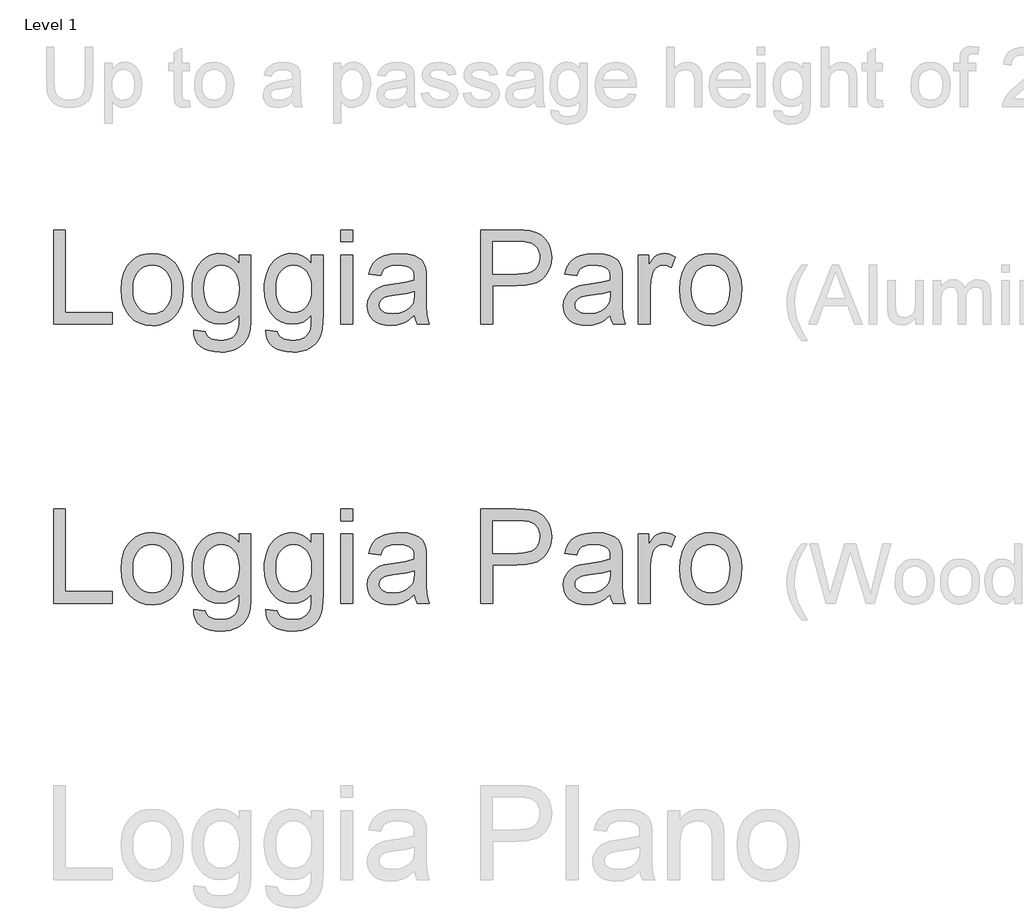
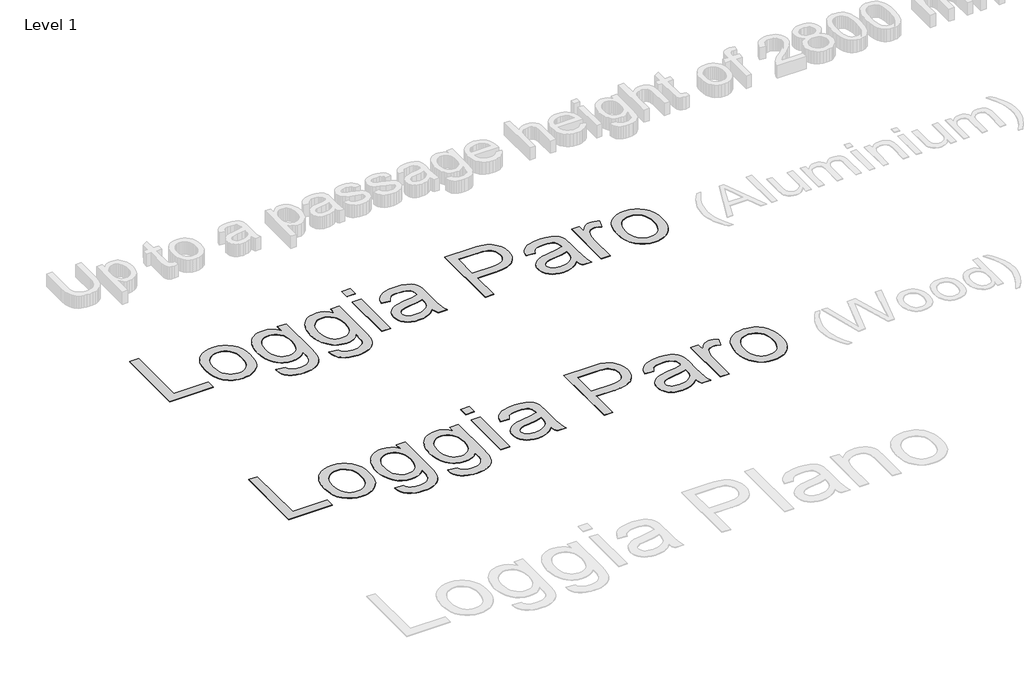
# One storey, part 10 of 47: 2 proxies.
"""IFC4 building model written with IfcOpenShell, lengths in millimetres."""

from ifc_helpers import new_model, si_unit, origin, origin_with_axes, place, context, project, spatial, polyline, outline, extrude, element, save

model = new_model("IFC4")

# Units and contexts
model_context = context("Model", 3, world=origin())
ifc_project = project(units=[si_unit("LENGTHUNIT", "METRE", prefix="MILLI")], contexts=[model_context])

# Site, building, storey
site = spatial("IfcSite", under=ifc_project)
building = spatial("IfcBuilding", under=site)
storey = spatial("IfcBuildingStorey", under=building, Name="Level 1", Elevation=0.0)

# Proxies
placement = place(None, origin())
element("IfcBuildingElementProxy", 1, Name="800mm Arial", ObjectType="800mm Arial", at=placement, inside=storey, context=model_context, shape_type="SweptSolid", body=[
    extrude(outline(polyline([(172933.6081343, -17751.4466063), (172933.6081343, -16952.057908), (173033.5317216, -16952.057908), (173033.5317216, -17651.523019), (173433.2260708, -17651.523019), (173433.2260708, -17751.4466063), (172933.6081343, -17751.4466063)])), origin_with_axes(), (0.0, 0.0, 1.0), 5.0),
    extrude(outline(polyline([(173508.1687612, -17457.9210686), (173513.5723439, -17381.8927826), (173520.3268222, -17347.8215472), (173529.7830919, -17316.3789169), (173541.9411529, -17287.5648918), (173556.8010052, -17261.3794717), (173574.3626488, -17237.8226568), (173594.6260838, -17216.8944469), (173632.7073142, -17188.4616), (173674.7406006, -17168.1524237), (173720.7259429, -17155.9669178), (173770.6633411, -17151.9050826), (173825.7908622, -17156.8512513), (173875.6367777, -17171.6897577), (173920.2010875, -17196.4206016), (173959.4837917, -17231.043783), (173991.5454554, -17274.3883225), (174014.4466438, -17325.2832405), (174028.1873568, -17383.7285369), (174032.7675945, -17449.7242119), (174030.7427757, -17503.2111418), (174024.6683194, -17550.6724063), (174014.5442254, -17592.1080051), (174000.3704939, -17627.5179385), (173982.3239916, -17658.1036801), (173960.581585, -17685.0667037), (173935.1432743, -17708.4070094), (173906.0090595, -17728.1245972), (173874.3133268, -17743.7925474), (173841.1904629, -17754.9839403), (173806.6404677, -17761.6987761), (173770.6633411, -17763.9370547), (173714.7307716, -17759.0091825), (173664.4213434, -17744.2255658), (173619.7350565, -17719.5862047), (173580.671911, -17685.0910991), (173548.951783, -17641.3257389), (173526.2945487, -17588.8756137), (173512.7002081, -17527.7407236), (173508.1687612, -17457.9210686)]), holes=[polyline([(173608.0923485, -17457.7259054), (173610.9832043, -17506.1934803), (173619.6557715, -17548.1596793), (173634.1100501, -17583.6245023), (173654.3460403, -17612.5879494), (173678.961006, -17635.0866135), (173706.5522114, -17651.1570879), (173737.1196564, -17660.7993726), (173770.6633411, -17664.0134674), (173804.036258, -17660.781076), (173834.481726, -17651.0839017), (173861.9997451, -17634.9219445), (173886.5903154, -17612.2952045), (173906.8263056, -17583.0451114), (173921.2805843, -17547.0130952), (173929.9531515, -17504.1991558), (173932.8440072, -17454.6032933), (173929.9348549, -17407.672629), (173921.2073981, -17366.8042233), (173906.6616366, -17331.9980763), (173886.2975706, -17303.2541879), (173861.6155175, -17280.7555238), (173834.1157949, -17264.6850494), (173803.7984028, -17255.0427647), (173770.6633411, -17251.8286698), (173737.1196564, -17255.030567), (173706.5522114, -17264.6362586), (173678.961006, -17280.6457444), (173654.3460403, -17303.0590247), (173634.1100501, -17331.9370878), (173619.6557715, -17367.3409222), (173610.9832043, -17409.2705281), (173608.0923485, -17457.7259054)])]), origin_with_axes(), (0.0, 0.0, 1.0), 5.0),
    extrude(outline(polyline([(174120.2007334, -17801.4084), (174220.1243207, -17813.8988484), (174224.3447261, -17830.7316792), (174231.1510447, -17845.1249694), (174240.5432764, -17857.0787189), (174252.5214213, -17866.5929276), (174271.9035722, -17876.326695), (174294.5303122, -17883.279386), (174349.5175597, -17888.8415388), (174380.7192853, -17887.2680351), (174408.1641183, -17882.5475238), (174431.8520585, -17874.680005), (174451.7831061, -17863.6654788), (174468.3719829, -17849.8088876), (174482.0334108, -17833.415174), (174492.7673899, -17814.4843381), (174500.5739202, -17793.0163799), (174505.9897005, -17750.0316727), (174507.4046342, -17676.5039158), (174474.1536943, -17709.2913429), (174437.0482802, -17732.7109337), (174396.0883918, -17746.7626882), (174351.274029, -17751.4466063), (174296.4880436, -17745.9942328), (174248.252225, -17729.6371124), (174226.5906283, -17717.3692721), (174206.5665732, -17702.375245), (174171.4310882, -17664.2086307), (174143.5532368, -17618.4184516), (174123.6404858, -17568.2858902), (174111.6928352, -17513.8109462), (174107.710285, -17454.9936198), (174109.4972486, -17413.8446669), (174114.8581393, -17374.3180087), (174123.7929571, -17336.413645), (174136.3017021, -17300.1315758), (174152.1953097, -17266.6793739), (174171.2847158, -17237.2646118), (174193.5699201, -17211.8872897), (174219.0509228, -17190.5474073), (174247.3191007, -17173.6413902), (174277.9658308, -17161.5656638), (174310.9911131, -17154.3202279), (174346.3949476, -17151.9050826), (174393.1243498, -17157.3696537), (174435.535765, -17173.7633673), (174473.6291931, -17201.0862232), (174507.4046342, -17239.3382214), (174507.4046342, -17164.395531), (174607.3282214, -17164.395531), (174607.3282214, -17671.2345079), (174605.620543, -17734.7418513), (174600.4975075, -17788.2592756), (174591.959115, -17831.7867806), (174580.0053655, -17865.3243664), (174564.3496131, -17892.372774), (174544.7052115, -17916.4327442), (174521.072161, -17937.5042771), (174493.4504613, -17955.5873725), (174462.1206598, -17970.1026397), (174427.3633036, -17980.4706877), (174389.1783927, -17986.6915165), (174347.5659271, -17988.7651261), (174298.610444, -17985.8437761), (174254.5950309, -17977.0797262), (174215.5196876, -17962.4729762), (174181.3844143, -17942.0235262), (174153.8115055, -17915.7069809), (174134.4232557, -17883.4989447), (174123.219665, -17845.3994177), (174120.2007334, -17801.4084)]), holes=[polyline([(174207.6338723, -17448.1629058), (174210.2990705, -17497.569704), (174218.2946652, -17539.8164501), (174231.6206563, -17574.9031443), (174250.2770438, -17602.8297865), (174272.9586735, -17624.1330758), (174298.3603911, -17639.3497109), (174326.4821966, -17648.479692), (174357.32409, -17651.523019), (174387.8610407, -17648.4979885), (174415.8486715, -17639.4228971), (174441.2869822, -17624.2977447), (174464.1759729, -17603.1225314), (174483.0885122, -17575.4703375), (174496.5974688, -17540.9142434), (174504.7028428, -17499.4542492), (174507.4046342, -17451.0903547), (174504.6235578, -17404.7451801), (174496.2803285, -17364.4622642), (174482.3749465, -17330.241607), (174462.9074117, -17302.0832084), (174439.524414, -17280.0968478), (174413.8726435, -17264.3923045), (174385.9521001, -17254.9695785), (174355.7627839, -17251.8286698), (174326.0796724, -17254.9207877), (174298.7019268, -17264.1971412), (174273.6295472, -17279.6577304), (174250.8625336, -17301.3025554), (174231.9499943, -17329.0340343), (174218.4410376, -17362.7545857), (174210.3356636, -17402.4642096), (174207.6338723, -17448.1629058)])]), origin_with_axes(), (0.0, 0.0, 1.0), 5.0),
    extrude(outline(polyline([(174732.2327056, -17801.4084), (174832.1562929, -17813.8988484), (174836.3766983, -17830.7316792), (174843.1830168, -17845.1249694), (174852.5752486, -17857.0787189), (174864.5533934, -17866.5929276), (174883.9355443, -17876.326695), (174906.5622844, -17883.279386), (174961.5495319, -17888.8415388), (174992.7512575, -17887.2680351), (175020.1960904, -17882.5475238), (175043.8840307, -17874.680005), (175063.8150782, -17863.6654788), (175080.403955, -17849.8088876), (175094.065383, -17833.415174), (175104.7993621, -17814.4843381), (175112.6058923, -17793.0163799), (175118.0216727, -17750.0316727), (175119.4366063, -17676.5039158), (175086.1856665, -17709.2913429), (175049.0802524, -17732.7109337), (175008.1203639, -17746.7626882), (174963.3060012, -17751.4466063), (174908.5200158, -17745.9942328), (174860.2841972, -17729.6371124), (174838.6226004, -17717.3692721), (174818.5985454, -17702.375245), (174783.4630604, -17664.2086307), (174755.585209, -17618.4184516), (174735.672458, -17568.2858902), (174723.7248074, -17513.8109462), (174719.7422572, -17454.9936198), (174721.5292207, -17413.8446669), (174726.8901114, -17374.3180087), (174735.8249293, -17336.413645), (174748.3336742, -17300.1315758), (174764.2272819, -17266.6793739), (174783.3166879, -17237.2646118), (174805.6018923, -17211.8872897), (174831.0828949, -17190.5474073), (174859.3510729, -17173.6413902), (174889.997803, -17161.5656638), (174923.0230853, -17154.3202279), (174958.4269198, -17151.9050826), (175005.156322, -17157.3696537), (175047.5677371, -17173.7633673), (175085.6611653, -17201.0862232), (175119.4366063, -17239.3382214), (175119.4366063, -17164.395531), (175219.3601936, -17164.395531), (175219.3601936, -17671.2345079), (175217.6525151, -17734.7418513), (175212.5294796, -17788.2592756), (175203.9910872, -17831.7867806), (175192.0373377, -17865.3243664), (175176.3815852, -17892.372774), (175156.7371837, -17916.4327442), (175133.1041331, -17937.5042771), (175105.4824335, -17955.5873725), (175074.152632, -17970.1026397), (175039.3952758, -17980.4706877), (175001.2103649, -17986.6915165), (174959.5978993, -17988.7651261), (174910.6424162, -17985.8437761), (174866.627003, -17977.0797262), (174827.5516598, -17962.4729762), (174793.4163865, -17942.0235262), (174765.8434776, -17915.7069809), (174746.4552279, -17883.4989447), (174735.2516372, -17845.3994177), (174732.2327056, -17801.4084)]), holes=[polyline([(174819.6658444, -17448.1629058), (174822.3310427, -17497.569704), (174830.3266373, -17539.8164501), (174843.6526284, -17574.9031443), (174862.309016, -17602.8297865), (174884.9906457, -17624.1330758), (174910.3923633, -17639.3497109), (174938.5141688, -17648.479692), (174969.3560621, -17651.523019), (174999.8930129, -17648.4979885), (175027.8806437, -17639.4228971), (175053.3189544, -17624.2977447), (175076.207945, -17603.1225314), (175095.1204843, -17575.4703375), (175108.629441, -17540.9142434), (175116.734815, -17499.4542492), (175119.4366063, -17451.0903547), (175116.6555299, -17404.7451801), (175108.3123007, -17364.4622642), (175094.4069187, -17330.241607), (175074.9393839, -17302.0832084), (175051.5563862, -17280.0968478), (175025.9046157, -17264.3923045), (174997.9840723, -17254.9695785), (174967.7947561, -17251.8286698), (174938.1116445, -17254.9207877), (174910.733899, -17264.1971412), (174885.6615194, -17279.6577304), (174862.8945057, -17301.3025554), (174843.9819664, -17329.0340343), (174830.4730098, -17362.7545857), (174822.3676358, -17402.4642096), (174819.6658444, -17448.1629058)])]), origin_with_axes(), (0.0, 0.0, 1.0), 5.0),
    extrude(outline(polyline([(175369.2455746, -17751.4466063), (175369.2455746, -17164.395531), (175469.1691618, -17164.395531), (175469.1691618, -17751.4466063), (175369.2455746, -17751.4466063)])), origin_with_axes(), (0.0, 0.0, 1.0), 5.0),
    extrude(outline(polyline([(175369.2455746, -17051.9814953), (175369.2455746, -16952.057908), (175469.1691618, -16952.057908), (175469.1691618, -17051.9814953), (175369.2455746, -17051.9814953)])), origin_with_axes(), (0.0, 0.0, 1.0), 5.0),
    extrude(outline(polyline([(175993.7679951, -17676.5039158), (175946.0261835, -17717.4394089), (175921.6246776, -17732.6011544), (175896.8694383, -17744.2255658), (175845.1755708, -17759.0091825), (175789.8223922, -17763.9370547), (175745.3312686, -17760.9730128), (175706.3169138, -17752.0808869), (175672.779328, -17737.2606771), (175644.718511, -17716.5123834), (175622.5613826, -17691.1533578), (175606.7348622, -17662.5009522), (175597.23895, -17630.5551667), (175594.073646, -17595.3160012), (175598.8551457, -17553.8926), (175613.1996451, -17516.2748823), (175635.3262793, -17484.072945), (175663.4541836, -17458.8968849), (175696.5099602, -17439.8684674), (175733.4202111, -17426.1094578), (175819.8775337, -17411.0818871), (175922.0454984, -17395.2736633), (175993.1825054, -17376.733154), (175993.7679951, -17354.4845427), (175992.0481189, -17330.2599035), (175986.8884903, -17309.8897386), (175978.2891094, -17293.3740481), (175966.249976, -17280.7128318), (175945.4406938, -17268.0760109), (175920.0938658, -17259.0497103), (175890.2094922, -17253.63393), (175855.7875728, -17251.8286698), (175796.2627796, -17256.634565), (175773.2335154, -17262.641934), (175754.693006, -17271.0522506), (175739.4580743, -17282.5241908), (175726.345543, -17297.7164305), (175715.3554121, -17316.6289698), (175706.4876817, -17339.2618087), (175606.5640944, -17326.7713603), (175623.9092288, -17272.1256485), (175635.7836932, -17249.1939659), (175649.7927557, -17229.1897321), (175666.5402026, -17211.7104229), (175686.6298203, -17196.3535142), (175710.0616088, -17183.1190059), (175736.835568, -17172.006898), (175798.2388076, -17156.9305364), (175868.6683478, -17151.9050826), (175936.2192299, -17156.3450466), (175989.7671484, -17169.6649389), (176030.1415471, -17189.6935681), (176058.1718698, -17214.259743), (176076.7611699, -17244.6320248), (176088.812501, -17282.0789746), (176092.4718121, -17316.622871), (176093.6915824, -17369.5121135), (176093.6915824, -17493.8311078), (176094.9601436, -17602.1223197), (176098.7658271, -17667.4288244), (176106.2796125, -17710.3403454), (176118.6724793, -17751.4466063), (176018.748892, -17751.4466063), (176002.7455049, -17716.7075467), (175993.7679951, -17676.5039158)]), holes=[polyline([(175993.7679951, -17476.6567413), (175926.6318349, -17493.2944089), (175832.5631453, -17507.2973725), (175780.7229053, -17514.9575303), (175746.5937309, -17523.4959228), (175724.2231426, -17534.5714376), (175707.6586612, -17549.8429624), (175697.4125902, -17568.1395177), (175693.9972333, -17588.2901239), (175695.857383, -17603.8178005), (175701.4378324, -17618.0037297), (175710.7385813, -17630.8479115), (175723.7596299, -17642.350346), (175740.3790009, -17651.8279616), (175760.4747175, -17658.5976871), (175811.0951871, -17664.0134674), (175864.7650826, -17658.0365927), (175889.2580713, -17650.5654993), (175912.1897539, -17640.1059685), (175950.6369155, -17613.6857427), (175977.3742816, -17582.240063), (175989.2304494, -17549.8429624), (175993.1825054, -17504.9554134), (175993.7679951, -17476.6567413)])]), origin_with_axes(), (0.0, 0.0, 1.0), 5.0),
    extrude(outline(polyline([(176555.8381737, -17751.4466063), (176555.8381737, -16952.057908), (176852.0959969, -16952.057908), (176921.0862081, -16953.9607497), (176971.5359099, -16959.669275), (177024.7910835, -16973.8917973), (177068.6296299, -16997.0430386), (177087.2372267, -17012.2291795), (177103.9297839, -17030.1720014), (177131.5697801, -17074.3276881), (177141.9866189, -17099.7659988), (177149.4272181, -17126.4118822), (177155.3796974, -17183.3263668), (177151.3605541, -17232.3977281), (177139.3031242, -17277.5414289), (177119.2074076, -17318.7574691), (177091.0734044, -17356.0458488), (177073.3791107, -17372.6042313), (177052.4493762, -17386.9548295), (177028.2842008, -17399.0976434), (177000.8835845, -17409.0326729), (176936.3760294, -17422.2793789), (176858.9267109, -17426.6949476), (176655.761761, -17426.6949476), (176655.761761, -17751.4466063), (176555.8381737, -17751.4466063)]), holes=[polyline([(176655.761761, -17326.7713603), (176864.7816086, -17326.7713603), (176912.8405605, -17324.4781921), (176953.385727, -17317.5986873), (176986.4171082, -17306.132846), (177011.9347039, -17290.0806681), (177030.9753191, -17269.8690734), (177044.5757586, -17245.9249813), (177052.7360222, -17218.248392), (177055.4561101, -17186.8393055), (177053.8521121, -17163.5172963), (177049.0401181, -17141.9517565), (177041.020128, -17122.142686), (177029.7921419, -17104.0900847), (177015.9538473, -17088.3794426), (177000.1029315, -17075.5962493), (176982.2393947, -17065.7405048), (176962.3632368, -17058.8122092), (176923.8184937, -17053.6891738), (176862.4396495, -17051.9814953), (176655.761761, -17051.9814953), (176655.761761, -17326.7713603)])]), origin_with_axes(), (0.0, 0.0, 1.0), 5.0),
    extrude(outline(polyline([(177654.9976339, -17676.5039158), (177607.2558223, -17717.4394089), (177582.8543164, -17732.6011544), (177558.0990771, -17744.2255658), (177506.4052095, -17759.0091825), (177451.0520309, -17763.9370547), (177406.5609073, -17760.9730128), (177367.5465526, -17752.0808869), (177334.0089667, -17737.2606771), (177305.9481498, -17716.5123834), (177283.7910213, -17691.1533578), (177267.964501, -17662.5009522), (177258.4685888, -17630.5551667), (177255.3032847, -17595.3160012), (177260.0847845, -17553.8926), (177274.4292838, -17516.2748823), (177296.555918, -17484.072945), (177324.6838224, -17458.8968849), (177357.7395989, -17439.8684674), (177394.6498498, -17426.1094578), (177481.1071724, -17411.0818871), (177583.2751371, -17395.2736633), (177654.4121441, -17376.733154), (177654.9976339, -17354.4845427), (177653.2777577, -17330.2599035), (177648.1181291, -17309.8897386), (177639.5187481, -17293.3740481), (177627.4796147, -17280.7128318), (177606.6703325, -17268.0760109), (177581.3235046, -17259.0497103), (177551.4391309, -17253.63393), (177517.0172116, -17251.8286698), (177457.4924184, -17256.634565), (177434.4631541, -17262.641934), (177415.9226448, -17271.0522506), (177400.687713, -17282.5241908), (177387.5751818, -17297.7164305), (177376.5850509, -17316.6289698), (177367.7173204, -17339.2618087), (177267.7937331, -17326.7713603), (177285.1388675, -17272.1256485), (177297.0133319, -17249.1939659), (177311.0223944, -17229.1897321), (177327.7698414, -17211.7104229), (177347.8594591, -17196.3535142), (177371.2912475, -17183.1190059), (177398.0652068, -17172.006898), (177459.4684463, -17156.9305364), (177529.8979865, -17151.9050826), (177597.4488686, -17156.3450466), (177650.9967871, -17169.6649389), (177691.3711858, -17189.6935681), (177719.4015085, -17214.259743), (177737.9908087, -17244.6320248), (177750.0421398, -17282.0789746), (177753.7014508, -17316.622871), (177754.9212212, -17369.5121135), (177754.9212212, -17493.8311078), (177756.1897823, -17602.1223197), (177759.9954658, -17667.4288244), (177767.5092512, -17710.3403454), (177779.902118, -17751.4466063), (177679.9785307, -17751.4466063), (177663.9751437, -17716.7075467), (177654.9976339, -17676.5039158)]), holes=[polyline([(177654.9976339, -17476.6567413), (177587.8614737, -17493.2944089), (177493.7927841, -17507.2973725), (177441.9525441, -17514.9575303), (177407.8233696, -17523.4959228), (177385.4527813, -17534.5714376), (177368.8883, -17549.8429624), (177358.642229, -17568.1395177), (177355.226872, -17588.2901239), (177357.0870218, -17603.8178005), (177362.6674712, -17618.0037297), (177371.9682201, -17630.8479115), (177384.9892686, -17642.350346), (177401.6086397, -17651.8279616), (177421.7043562, -17658.5976871), (177472.3248259, -17664.0134674), (177525.9947214, -17658.0365927), (177550.4877101, -17650.5654993), (177573.4193927, -17640.1059685), (177611.8665542, -17613.6857427), (177638.6039203, -17582.240063), (177650.4600882, -17549.8429624), (177654.4121441, -17504.9554134), (177654.9976339, -17476.6567413)])]), origin_with_axes(), (0.0, 0.0, 1.0), 5.0),
    extrude(outline(polyline([(177892.3161537, -17751.4466063), (177892.3161537, -17164.395531), (177979.7492926, -17164.395531), (177979.7492926, -17251.2431801), (178012.0488115, -17200.8910599), (178027.2471501, -17183.4727393), (178041.8112081, -17171.2262449), (178071.6711864, -17156.7353732), (178104.2634502, -17151.9050826), (178129.0491837, -17153.8323197), (178154.0300806, -17159.6140312), (178179.2061407, -17169.250217), (178204.577364, -17182.7408771), (178171.2044471, -17272.3208118), (178136.075061, -17256.9517053), (178100.9456748, -17251.8286698), (178071.110092, -17256.7565421), (178044.4459121, -17271.5401587), (178022.9047677, -17295.0573311), (178008.4382913, -17326.1858705), (177996.2893786, -17382.0025619), (177992.239741, -17442.8934979), (177992.239741, -17751.4466063), (177892.3161537, -17751.4466063)])), origin_with_axes(), (0.0, 0.0, 1.0), 5.0),
    extrude(outline(polyline([(178242.0487092, -17457.9210686), (178247.4522919, -17381.8927826), (178254.2067702, -17347.8215472), (178263.6630399, -17316.3789169), (178275.8211009, -17287.5648918), (178290.6809532, -17261.3794717), (178308.2425968, -17237.8226568), (178328.5060318, -17216.8944469), (178366.5872622, -17188.4616), (178408.6205486, -17168.1524237), (178454.6058909, -17155.9669178), (178504.5432891, -17151.9050826), (178559.6708102, -17156.8512513), (178609.5167257, -17171.6897577), (178654.0810355, -17196.4206016), (178693.3637397, -17231.043783), (178725.4254034, -17274.3883225), (178748.3265918, -17325.2832405), (178762.0673048, -17383.7285369), (178766.6475425, -17449.7242119), (178764.6227237, -17503.2111418), (178758.5482674, -17550.6724063), (178748.4241734, -17592.1080051), (178734.2504419, -17627.5179385), (178716.2039396, -17658.1036801), (178694.461533, -17685.0667037), (178669.0232223, -17708.4070094), (178639.8890075, -17728.1245972), (178608.1932748, -17743.7925474), (178575.0704109, -17754.9839403), (178540.5204157, -17761.6987761), (178504.5432891, -17763.9370547), (178448.6107196, -17759.0091825), (178398.3012914, -17744.2255658), (178353.6150045, -17719.5862047), (178314.551859, -17685.0910991), (178282.831731, -17641.3257389), (178260.1744967, -17588.8756137), (178246.5801561, -17527.7407236), (178242.0487092, -17457.9210686)]), holes=[polyline([(178341.9722965, -17457.7259054), (178344.8631523, -17506.1934803), (178353.5357195, -17548.1596793), (178367.9899981, -17583.6245023), (178388.2259883, -17612.5879494), (178412.840954, -17635.0866135), (178440.4321594, -17651.1570879), (178470.9996044, -17660.7993726), (178504.5432891, -17664.0134674), (178537.916206, -17660.781076), (178568.361674, -17651.0839017), (178595.8796931, -17634.9219445), (178620.4702634, -17612.2952045), (178640.7062536, -17583.0451114), (178655.1605323, -17547.0130952), (178663.8330995, -17504.1991558), (178666.7239552, -17454.6032933), (178663.8148029, -17407.672629), (178655.0873461, -17366.8042233), (178640.5415846, -17331.9980763), (178620.1775186, -17303.2541879), (178595.4954655, -17280.7555238), (178567.9957429, -17264.6850494), (178537.6783508, -17255.0427647), (178504.5432891, -17251.8286698), (178470.9996044, -17255.030567), (178440.4321594, -17264.6362586), (178412.840954, -17280.6457444), (178388.2259883, -17303.0590247), (178367.9899981, -17331.9370878), (178353.5357195, -17367.3409222), (178344.8631523, -17409.2705281), (178341.9722965, -17457.7259054)])]), origin_with_axes(), (0.0, 0.0, 1.0), 5.0),
])
element("IfcBuildingElementProxy", 2, Name="800mm Arial", ObjectType="800mm Arial", at=placement, inside=storey, context=model_context, shape_type="SweptSolid", body=[
    extrude(outline(polyline([(172933.6081343, -20119.9515784), (172933.6081343, -19320.56288), (173033.5317216, -19320.56288), (173033.5317216, -20020.0279911), (173433.2260708, -20020.0279911), (173433.2260708, -20119.9515784), (172933.6081343, -20119.9515784)])), origin_with_axes(), (0.0, 0.0, 1.0), 5.0),
    extrude(outline(polyline([(173508.1687612, -19826.4260407), (173513.5723439, -19750.3977546), (173520.3268222, -19716.3265192), (173529.7830919, -19684.883889), (173541.9411529, -19656.0698638), (173556.8010052, -19629.8844438), (173574.3626488, -19606.3276288), (173594.6260838, -19585.399419), (173632.7073142, -19556.9665721), (173674.7406006, -19536.6573957), (173720.7259429, -19524.4718899), (173770.6633411, -19520.4100546), (173825.7908622, -19525.3562234), (173875.6367777, -19540.1947297), (173920.2010875, -19564.9255736), (173959.4837917, -19599.5487551), (173991.5454554, -19642.8932946), (174014.4466438, -19693.7882125), (174028.1873568, -19752.233509), (174032.7675945, -19818.2291839), (174030.7427757, -19871.7161139), (174024.6683194, -19919.1773783), (174014.5442254, -19960.6129772), (174000.3704939, -19996.0229105), (173982.3239916, -20026.6086521), (173960.581585, -20053.5716758), (173935.1432743, -20076.9119815), (173906.0090595, -20096.6295692), (173874.3133268, -20112.2975194), (173841.1904629, -20123.4889124), (173806.6404677, -20130.2037482), (173770.6633411, -20132.4420268), (173714.7307716, -20127.5141546), (173664.4213434, -20112.7305379), (173619.7350565, -20088.0911768), (173580.671911, -20053.5960712), (173548.951783, -20009.8307109), (173526.2945487, -19957.3805858), (173512.7002081, -19896.2456957), (173508.1687612, -19826.4260407)]), holes=[polyline([(173608.0923485, -19826.2308774), (173610.9832043, -19874.6984524), (173619.6557715, -19916.6646514), (173634.1100501, -19952.1294744), (173654.3460403, -19981.0929214), (173678.961006, -20003.5915856), (173706.5522114, -20019.66206), (173737.1196564, -20029.3043446), (173770.6633411, -20032.5184395), (173804.036258, -20029.286048), (173834.481726, -20019.5888737), (173861.9997451, -20003.4269166), (173886.5903154, -19980.8001765), (173906.8263056, -19951.5500835), (173921.2805843, -19915.5180673), (173929.9531515, -19872.7041279), (173932.8440072, -19823.1082653), (173929.9348549, -19776.177601), (173921.2073981, -19735.3091953), (173906.6616366, -19700.5030483), (173886.2975706, -19671.75916), (173861.6155175, -19649.2604958), (173834.1157949, -19633.1900214), (173803.7984028, -19623.5477368), (173770.6633411, -19620.3336419), (173737.1196564, -19623.5355391), (173706.5522114, -19633.1412306), (173678.961006, -19649.1507165), (173654.3460403, -19671.5639967), (173634.1100501, -19700.4420598), (173619.6557715, -19735.8458943), (173610.9832043, -19777.7755002), (173608.0923485, -19826.2308774)])]), origin_with_axes(), (0.0, 0.0, 1.0), 5.0),
    extrude(outline(polyline([(174120.2007334, -20169.913372), (174220.1243207, -20182.4038204), (174224.3447261, -20199.2366513), (174231.1510447, -20213.6299415), (174240.5432764, -20225.5836909), (174252.5214213, -20235.0978997), (174271.9035722, -20244.8316671), (174294.5303122, -20251.7843581), (174349.5175597, -20257.3465109), (174380.7192853, -20255.7730071), (174408.1641183, -20251.0524959), (174431.8520585, -20243.1849771), (174451.7831061, -20232.1704508), (174468.3719829, -20218.3138596), (174482.0334108, -20201.9201461), (174492.7673899, -20182.9893102), (174500.5739202, -20161.521352), (174505.9897005, -20118.5366448), (174507.4046342, -20045.0088879), (174474.1536943, -20077.796315), (174437.0482802, -20101.2159057), (174396.0883918, -20115.2676602), (174351.274029, -20119.9515784), (174296.4880436, -20114.4992049), (174248.252225, -20098.1420845), (174226.5906283, -20085.8742441), (174206.5665732, -20070.8802171), (174171.4310882, -20032.7136027), (174143.5532368, -19986.9234237), (174123.6404858, -19936.7908622), (174111.6928352, -19882.3159183), (174107.710285, -19823.4985918), (174109.4972486, -19782.349639), (174114.8581393, -19742.8229807), (174123.7929571, -19704.918617), (174136.3017021, -19668.6365479), (174152.1953097, -19635.1843459), (174171.2847158, -19605.7695839), (174193.5699201, -19580.3922617), (174219.0509228, -19559.0523794), (174247.3191007, -19542.1463623), (174277.9658308, -19530.0706358), (174310.9911131, -19522.8251999), (174346.3949476, -19520.4100546), (174393.1243498, -19525.8746258), (174435.535765, -19542.2683393), (174473.6291931, -19569.5911952), (174507.4046342, -19607.8431935), (174507.4046342, -19532.900503), (174607.3282214, -19532.900503), (174607.3282214, -20039.73948), (174605.620543, -20103.2468234), (174600.4975075, -20156.7642476), (174591.959115, -20200.2917526), (174580.0053655, -20233.8293385), (174564.3496131, -20260.8777461), (174544.7052115, -20284.9377163), (174521.072161, -20306.0092491), (174493.4504613, -20324.0923446), (174462.1206598, -20338.6076118), (174427.3633036, -20348.9756598), (174389.1783927, -20355.1964886), (174347.5659271, -20357.2700982), (174298.610444, -20354.3487482), (174254.5950309, -20345.5846982), (174215.5196876, -20330.9779482), (174181.3844143, -20310.5284983), (174153.8115055, -20284.2119529), (174134.4232557, -20252.0039167), (174123.219665, -20213.9043898), (174120.2007334, -20169.913372)]), holes=[polyline([(174207.6338723, -19816.6678779), (174210.2990705, -19866.074676), (174218.2946652, -19908.3214222), (174231.6206563, -19943.4081164), (174250.2770438, -19971.3347586), (174272.9586735, -19992.6380478), (174298.3603911, -20007.854683), (174326.4821966, -20016.984664), (174357.32409, -20020.0279911), (174387.8610407, -20017.0029606), (174415.8486715, -20007.9278692), (174441.2869822, -19992.8027168), (174464.1759729, -19971.6275035), (174483.0885122, -19943.9753096), (174496.5974688, -19909.4192155), (174504.7028428, -19867.9592212), (174507.4046342, -19819.5953267), (174504.6235578, -19773.2501522), (174496.2803285, -19732.9672363), (174482.3749465, -19698.746579), (174462.9074117, -19670.5881804), (174439.524414, -19648.6018198), (174413.8726435, -19632.8972765), (174385.9521001, -19623.4745506), (174355.7627839, -19620.3336419), (174326.0796724, -19623.4257597), (174298.7019268, -19632.7021133), (174273.6295472, -19648.1627025), (174250.8625336, -19669.8075274), (174231.9499943, -19697.5390064), (174218.4410376, -19731.2595578), (174210.3356636, -19770.9691816), (174207.6338723, -19816.6678779)])]), origin_with_axes(), (0.0, 0.0, 1.0), 5.0),
    extrude(outline(polyline([(174732.2327056, -20169.913372), (174832.1562929, -20182.4038204), (174836.3766983, -20199.2366513), (174843.1830168, -20213.6299415), (174852.5752486, -20225.5836909), (174864.5533934, -20235.0978997), (174883.9355443, -20244.8316671), (174906.5622844, -20251.7843581), (174961.5495319, -20257.3465109), (174992.7512575, -20255.7730071), (175020.1960904, -20251.0524959), (175043.8840307, -20243.1849771), (175063.8150782, -20232.1704508), (175080.403955, -20218.3138596), (175094.065383, -20201.9201461), (175104.7993621, -20182.9893102), (175112.6058923, -20161.521352), (175118.0216727, -20118.5366448), (175119.4366063, -20045.0088879), (175086.1856665, -20077.796315), (175049.0802524, -20101.2159057), (175008.1203639, -20115.2676602), (174963.3060012, -20119.9515784), (174908.5200158, -20114.4992049), (174860.2841972, -20098.1420845), (174838.6226004, -20085.8742441), (174818.5985454, -20070.8802171), (174783.4630604, -20032.7136027), (174755.585209, -19986.9234237), (174735.672458, -19936.7908622), (174723.7248074, -19882.3159183), (174719.7422572, -19823.4985918), (174721.5292207, -19782.349639), (174726.8901114, -19742.8229807), (174735.8249293, -19704.918617), (174748.3336742, -19668.6365479), (174764.2272819, -19635.1843459), (174783.3166879, -19605.7695839), (174805.6018923, -19580.3922617), (174831.0828949, -19559.0523794), (174859.3510729, -19542.1463623), (174889.997803, -19530.0706358), (174923.0230853, -19522.8251999), (174958.4269198, -19520.4100546), (175005.156322, -19525.8746258), (175047.5677371, -19542.2683393), (175085.6611653, -19569.5911952), (175119.4366063, -19607.8431935), (175119.4366063, -19532.900503), (175219.3601936, -19532.900503), (175219.3601936, -20039.73948), (175217.6525151, -20103.2468234), (175212.5294796, -20156.7642476), (175203.9910872, -20200.2917526), (175192.0373377, -20233.8293385), (175176.3815852, -20260.8777461), (175156.7371837, -20284.9377163), (175133.1041331, -20306.0092491), (175105.4824335, -20324.0923446), (175074.152632, -20338.6076118), (175039.3952758, -20348.9756598), (175001.2103649, -20355.1964886), (174959.5978993, -20357.2700982), (174910.6424162, -20354.3487482), (174866.627003, -20345.5846982), (174827.5516598, -20330.9779482), (174793.4163865, -20310.5284983), (174765.8434776, -20284.2119529), (174746.4552279, -20252.0039167), (174735.2516372, -20213.9043898), (174732.2327056, -20169.913372)]), holes=[polyline([(174819.6658444, -19816.6678779), (174822.3310427, -19866.074676), (174830.3266373, -19908.3214222), (174843.6526284, -19943.4081164), (174862.309016, -19971.3347586), (174884.9906457, -19992.6380478), (174910.3923633, -20007.854683), (174938.5141688, -20016.984664), (174969.3560621, -20020.0279911), (174999.8930129, -20017.0029606), (175027.8806437, -20007.9278692), (175053.3189544, -19992.8027168), (175076.207945, -19971.6275035), (175095.1204843, -19943.9753096), (175108.629441, -19909.4192155), (175116.734815, -19867.9592212), (175119.4366063, -19819.5953267), (175116.6555299, -19773.2501522), (175108.3123007, -19732.9672363), (175094.4069187, -19698.746579), (175074.9393839, -19670.5881804), (175051.5563862, -19648.6018198), (175025.9046157, -19632.8972765), (174997.9840723, -19623.4745506), (174967.7947561, -19620.3336419), (174938.1116445, -19623.4257597), (174910.733899, -19632.7021133), (174885.6615194, -19648.1627025), (174862.8945057, -19669.8075274), (174843.9819664, -19697.5390064), (174830.4730098, -19731.2595578), (174822.3676358, -19770.9691816), (174819.6658444, -19816.6678779)])]), origin_with_axes(), (0.0, 0.0, 1.0), 5.0),
    extrude(outline(polyline([(175369.2455746, -20119.9515784), (175369.2455746, -19532.900503), (175469.1691618, -19532.900503), (175469.1691618, -20119.9515784), (175369.2455746, -20119.9515784)])), origin_with_axes(), (0.0, 0.0, 1.0), 5.0),
    extrude(outline(polyline([(175369.2455746, -19420.4864673), (175369.2455746, -19320.56288), (175469.1691618, -19320.56288), (175469.1691618, -19420.4864673), (175369.2455746, -19420.4864673)])), origin_with_axes(), (0.0, 0.0, 1.0), 5.0),
    extrude(outline(polyline([(175993.7679951, -20045.0088879), (175946.0261835, -20085.9443809), (175921.6246776, -20101.1061264), (175896.8694383, -20112.7305379), (175845.1755708, -20127.5141546), (175789.8223922, -20132.4420268), (175745.3312686, -20129.4779848), (175706.3169138, -20120.5858589), (175672.779328, -20105.7656492), (175644.718511, -20085.0173555), (175622.5613826, -20059.6583298), (175606.7348622, -20031.0059242), (175597.23895, -19999.0601387), (175594.073646, -19963.8209732), (175598.8551457, -19922.397572), (175613.1996451, -19884.7798544), (175635.3262793, -19852.5779171), (175663.4541836, -19827.401857), (175696.5099602, -19808.3734395), (175733.4202111, -19794.6144299), (175819.8775337, -19779.5868591), (175922.0454984, -19763.7786354), (175993.1825054, -19745.238126), (175993.7679951, -19722.9895148), (175992.0481189, -19698.7648756), (175986.8884903, -19678.3947107), (175978.2891094, -19661.8790201), (175966.249976, -19649.2178039), (175945.4406938, -19636.580983), (175920.0938658, -19627.5546824), (175890.2094922, -19622.138902), (175855.7875728, -19620.3336419), (175796.2627796, -19625.1395371), (175773.2335154, -19631.1469061), (175754.693006, -19639.5572227), (175739.4580743, -19651.0291628), (175726.345543, -19666.2214026), (175715.3554121, -19685.1339419), (175706.4876817, -19707.7667808), (175606.5640944, -19695.2763324), (175623.9092288, -19640.6306206), (175635.7836932, -19617.6989379), (175649.7927557, -19597.6947042), (175666.5402026, -19580.215395), (175686.6298203, -19564.8584863), (175710.0616088, -19551.6239779), (175736.835568, -19540.51187), (175798.2388076, -19525.4355085), (175868.6683478, -19520.4100546), (175936.2192299, -19524.8500187), (175989.7671484, -19538.1699109), (176030.1415471, -19558.1985401), (176058.1718698, -19582.764715), (176076.7611699, -19613.1369968), (176088.812501, -19650.5839466), (176092.4718121, -19685.127843), (176093.6915824, -19738.0170855), (176093.6915824, -19862.3360799), (176094.9601436, -19970.6272918), (176098.7658271, -20035.9337965), (176106.2796125, -20078.8453175), (176118.6724793, -20119.9515784), (176018.748892, -20119.9515784), (176002.7455049, -20085.2125187), (175993.7679951, -20045.0088879)]), holes=[polyline([(175993.7679951, -19845.1617133), (175926.6318349, -19861.7993809), (175832.5631453, -19875.8023446), (175780.7229053, -19883.4625024), (175746.5937309, -19892.0008949), (175724.2231426, -19903.0764097), (175707.6586612, -19918.3479345), (175697.4125902, -19936.6444898), (175693.9972333, -19956.795096), (175695.857383, -19972.3227726), (175701.4378324, -19986.5087018), (175710.7385813, -19999.3528836), (175723.7596299, -20010.855318), (175740.3790009, -20020.3329337), (175760.4747175, -20027.1026591), (175811.0951871, -20032.5184395), (175864.7650826, -20026.5415648), (175889.2580713, -20019.0704713), (175912.1897539, -20008.6109406), (175950.6369155, -19982.1907147), (175977.3742816, -19950.745035), (175989.2304494, -19918.3479345), (175993.1825054, -19873.4603855), (175993.7679951, -19845.1617133)])]), origin_with_axes(), (0.0, 0.0, 1.0), 5.0),
    extrude(outline(polyline([(176555.8381737, -20119.9515784), (176555.8381737, -19320.56288), (176852.0959969, -19320.56288), (176921.0862081, -19322.4657218), (176971.5359099, -19328.174247), (177024.7910835, -19342.3967693), (177068.6296299, -19365.5480106), (177087.2372267, -19380.7341515), (177103.9297839, -19398.6769734), (177131.5697801, -19442.8326602), (177141.9866189, -19468.2709709), (177149.4272181, -19494.9168542), (177155.3796974, -19551.8313389), (177151.3605541, -19600.9027002), (177139.3031242, -19646.0464009), (177119.2074076, -19687.2624412), (177091.0734044, -19724.5508208), (177073.3791107, -19741.1092034), (177052.4493762, -19755.4598016), (177028.2842008, -19767.6026154), (177000.8835845, -19777.537645), (176936.3760294, -19790.784351), (176858.9267109, -19795.1999197), (176655.761761, -19795.1999197), (176655.761761, -20119.9515784), (176555.8381737, -20119.9515784)]), holes=[polyline([(176655.761761, -19695.2763324), (176864.7816086, -19695.2763324), (176912.8405605, -19692.9831641), (176953.385727, -19686.1036593), (176986.4171082, -19674.637818), (177011.9347039, -19658.5856402), (177030.9753191, -19638.3740454), (177044.5757586, -19614.4299534), (177052.7360222, -19586.7533641), (177055.4561101, -19555.3442775), (177053.8521121, -19532.0222684), (177049.0401181, -19510.4567285), (177041.020128, -19490.647658), (177029.7921419, -19472.5950568), (177015.9538473, -19456.8844146), (177000.1029315, -19444.1012213), (176982.2393947, -19434.2454769), (176962.3632368, -19427.3171813), (176923.8184937, -19422.1941458), (176862.4396495, -19420.4864673), (176655.761761, -19420.4864673), (176655.761761, -19695.2763324)])]), origin_with_axes(), (0.0, 0.0, 1.0), 5.0),
    extrude(outline(polyline([(177654.9976339, -20045.0088879), (177607.2558223, -20085.9443809), (177582.8543164, -20101.1061264), (177558.0990771, -20112.7305379), (177506.4052095, -20127.5141546), (177451.0520309, -20132.4420268), (177406.5609073, -20129.4779848), (177367.5465526, -20120.5858589), (177334.0089667, -20105.7656492), (177305.9481498, -20085.0173555), (177283.7910213, -20059.6583298), (177267.964501, -20031.0059242), (177258.4685888, -19999.0601387), (177255.3032847, -19963.8209732), (177260.0847845, -19922.397572), (177274.4292838, -19884.7798544), (177296.555918, -19852.5779171), (177324.6838224, -19827.401857), (177357.7395989, -19808.3734395), (177394.6498498, -19794.6144299), (177481.1071724, -19779.5868591), (177583.2751371, -19763.7786354), (177654.4121441, -19745.238126), (177654.9976339, -19722.9895148), (177653.2777577, -19698.7648756), (177648.1181291, -19678.3947107), (177639.5187481, -19661.8790201), (177627.4796147, -19649.2178039), (177606.6703325, -19636.580983), (177581.3235046, -19627.5546824), (177551.4391309, -19622.138902), (177517.0172116, -19620.3336419), (177457.4924184, -19625.1395371), (177434.4631541, -19631.1469061), (177415.9226448, -19639.5572227), (177400.687713, -19651.0291628), (177387.5751818, -19666.2214026), (177376.5850509, -19685.1339419), (177367.7173204, -19707.7667808), (177267.7937331, -19695.2763324), (177285.1388675, -19640.6306206), (177297.0133319, -19617.6989379), (177311.0223944, -19597.6947042), (177327.7698414, -19580.215395), (177347.8594591, -19564.8584863), (177371.2912475, -19551.6239779), (177398.0652068, -19540.51187), (177459.4684463, -19525.4355085), (177529.8979865, -19520.4100546), (177597.4488686, -19524.8500187), (177650.9967871, -19538.1699109), (177691.3711858, -19558.1985401), (177719.4015085, -19582.764715), (177737.9908087, -19613.1369968), (177750.0421398, -19650.5839466), (177753.7014508, -19685.127843), (177754.9212212, -19738.0170855), (177754.9212212, -19862.3360799), (177756.1897823, -19970.6272918), (177759.9954658, -20035.9337965), (177767.5092512, -20078.8453175), (177779.902118, -20119.9515784), (177679.9785307, -20119.9515784), (177663.9751437, -20085.2125187), (177654.9976339, -20045.0088879)]), holes=[polyline([(177654.9976339, -19845.1617133), (177587.8614737, -19861.7993809), (177493.7927841, -19875.8023446), (177441.9525441, -19883.4625024), (177407.8233696, -19892.0008949), (177385.4527813, -19903.0764097), (177368.8883, -19918.3479345), (177358.642229, -19936.6444898), (177355.226872, -19956.795096), (177357.0870218, -19972.3227726), (177362.6674712, -19986.5087018), (177371.9682201, -19999.3528836), (177384.9892686, -20010.855318), (177401.6086397, -20020.3329337), (177421.7043562, -20027.1026591), (177472.3248259, -20032.5184395), (177525.9947214, -20026.5415648), (177550.4877101, -20019.0704713), (177573.4193927, -20008.6109406), (177611.8665542, -19982.1907147), (177638.6039203, -19950.745035), (177650.4600882, -19918.3479345), (177654.4121441, -19873.4603855), (177654.9976339, -19845.1617133)])]), origin_with_axes(), (0.0, 0.0, 1.0), 5.0),
    extrude(outline(polyline([(177892.3161537, -20119.9515784), (177892.3161537, -19532.900503), (177979.7492926, -19532.900503), (177979.7492926, -19619.7481521), (178012.0488115, -19569.396032), (178027.2471501, -19551.9777113), (178041.8112081, -19539.731217), (178071.6711864, -19525.2403452), (178104.2634502, -19520.4100546), (178129.0491837, -19522.3372918), (178154.0300806, -19528.1190032), (178179.2061407, -19537.755189), (178204.577364, -19551.2458491), (178171.2044471, -19640.8257838), (178136.075061, -19625.4566774), (178100.9456748, -19620.3336419), (178071.110092, -19625.2615141), (178044.4459121, -19640.0451308), (178022.9047677, -19663.5623032), (178008.4382913, -19694.6908426), (177996.2893786, -19750.5075339), (177992.239741, -19811.3984699), (177992.239741, -20119.9515784), (177892.3161537, -20119.9515784)])), origin_with_axes(), (0.0, 0.0, 1.0), 5.0),
    extrude(outline(polyline([(178242.0487092, -19826.4260407), (178247.4522919, -19750.3977546), (178254.2067702, -19716.3265192), (178263.6630399, -19684.883889), (178275.8211009, -19656.0698638), (178290.6809532, -19629.8844438), (178308.2425968, -19606.3276288), (178328.5060318, -19585.399419), (178366.5872622, -19556.9665721), (178408.6205486, -19536.6573957), (178454.6058909, -19524.4718899), (178504.5432891, -19520.4100546), (178559.6708102, -19525.3562234), (178609.5167257, -19540.1947297), (178654.0810355, -19564.9255736), (178693.3637397, -19599.5487551), (178725.4254034, -19642.8932946), (178748.3265918, -19693.7882125), (178762.0673048, -19752.233509), (178766.6475425, -19818.2291839), (178764.6227237, -19871.7161139), (178758.5482674, -19919.1773783), (178748.4241734, -19960.6129772), (178734.2504419, -19996.0229105), (178716.2039396, -20026.6086521), (178694.461533, -20053.5716758), (178669.0232223, -20076.9119815), (178639.8890075, -20096.6295692), (178608.1932748, -20112.2975194), (178575.0704109, -20123.4889124), (178540.5204157, -20130.2037482), (178504.5432891, -20132.4420268), (178448.6107196, -20127.5141546), (178398.3012914, -20112.7305379), (178353.6150045, -20088.0911768), (178314.551859, -20053.5960712), (178282.831731, -20009.8307109), (178260.1744967, -19957.3805858), (178246.5801561, -19896.2456957), (178242.0487092, -19826.4260407)]), holes=[polyline([(178341.9722965, -19826.2308774), (178344.8631523, -19874.6984524), (178353.5357195, -19916.6646514), (178367.9899981, -19952.1294744), (178388.2259883, -19981.0929214), (178412.840954, -20003.5915856), (178440.4321594, -20019.66206), (178470.9996044, -20029.3043446), (178504.5432891, -20032.5184395), (178537.916206, -20029.286048), (178568.361674, -20019.5888737), (178595.8796931, -20003.4269166), (178620.4702634, -19980.8001765), (178640.7062536, -19951.5500835), (178655.1605323, -19915.5180673), (178663.8330995, -19872.7041279), (178666.7239552, -19823.1082653), (178663.8148029, -19776.177601), (178655.0873461, -19735.3091953), (178640.5415846, -19700.5030483), (178620.1775186, -19671.75916), (178595.4954655, -19649.2604958), (178567.9957429, -19633.1900214), (178537.6783508, -19623.5477368), (178504.5432891, -19620.3336419), (178470.9996044, -19623.5355391), (178440.4321594, -19633.1412306), (178412.840954, -19649.1507165), (178388.2259883, -19671.5639967), (178367.9899981, -19700.4420598), (178353.5357195, -19735.8458943), (178344.8631523, -19777.7755002), (178341.9722965, -19826.2308774)])]), origin_with_axes(), (0.0, 0.0, 1.0), 5.0),
])

save(model, "model.ifc")
